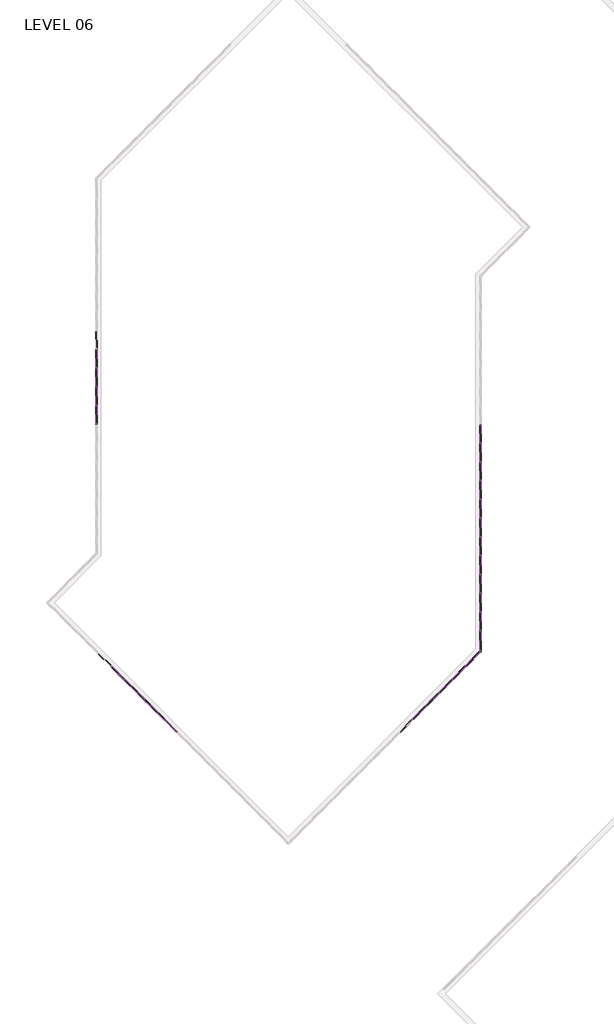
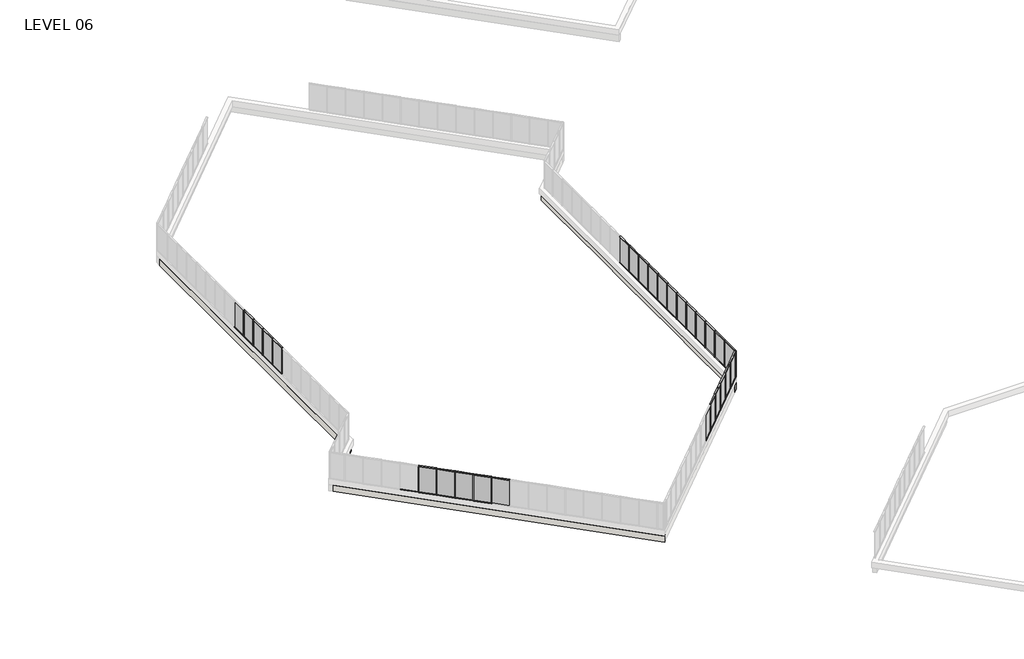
# One storey, part 4 of 17: 82 members, 28 plates, 3 walls.
"""IFC4 building model written with IfcOpenShell, lengths in millimetres."""

from ifc_helpers import new_model, si_unit, origin, place, context, project, spatial, faceted_brep, transform, mapped, element, save
from components import member_5247f267, member_e44af9ab, member_800970d4, member_c23f844a, member_1bd862b2, member_c975838b, member_ed9c17d6, plate_67294edd, plate_50b9cd61, plate_bbcbcabf, plate_db5d6751, plate_e0fd5134, plate_dca6a18a

model = new_model("IFC4")

# Units and contexts
model_context = context("Model", 3, world=origin())
ifc_project = project(units=[si_unit("LENGTHUNIT", "METRE", prefix="MILLI")], contexts=[model_context])

# Site, building, storey
site = spatial("IfcSite", under=ifc_project)
building = spatial("IfcBuilding", under=site)
storey = spatial("IfcBuildingStorey", under=building, Name="LEVEL 06", Elevation=19596.1)

# Members
placement = place(None, origin())
member_shape = member_5247f267(model_context)
element("IfcMember", 1, ObjectType="Rectangular Mullion : 2\" x 4.5\" rectangular", at=placement, inside=storey, context=model_context, shape_type="MappedRepresentation", body=[
    mapped(member_shape, transform((-32784.0347164, 58254.5675885, 22186.9), x_axis=(0.0, 0.0, 1.0), y_axis=(1.0, 0.0, 0.0), z_axis=(0.0, 1.0, 0.0))),
])
element("IfcMember", 2, ObjectType="Rectangular Mullion : 2\" x 4.5\" rectangular", at=placement, inside=storey, context=model_context, shape_type="MappedRepresentation", body=[
    mapped(member_shape, transform((-32784.0347164, 59778.5675885, 22186.9), x_axis=(0.0, 0.0, 1.0), y_axis=(1.0, 0.0, 0.0), z_axis=(0.0, 1.0, 0.0))),
])
element("IfcMember", 3, ObjectType="Rectangular Mullion : 2\" x 4.5\" rectangular", at=placement, inside=storey, context=model_context, shape_type="MappedRepresentation", body=[
    mapped(member_shape, transform((-32784.0347164, 62826.5675885, 22186.9), x_axis=(0.0, 0.0, 1.0), y_axis=(1.0, 0.0, 0.0), z_axis=(0.0, 1.0, 0.0))),
])
element("IfcMember", 4, ObjectType="Rectangular Mullion : 2\" x 4.5\" rectangular", at=placement, inside=storey, context=model_context, shape_type="MappedRepresentation", body=[
    mapped(member_shape, transform((-32784.0347164, 61302.5675885, 22186.9), x_axis=(0.0, 0.0, 1.0), y_axis=(1.0, 0.0, 0.0), z_axis=(0.0, 1.0, 0.0))),
])
element("IfcMember", 5, ObjectType="Rectangular Mullion : 2\" x 4.5\" rectangular", at=placement, inside=storey, context=model_context, shape_type="MappedRepresentation", body=[
    mapped(member_shape, transform((-1611.8847164, 49110.5675885, 22186.9), x_axis=(0.0, 0.0, 1.0), y_axis=(1.0, 0.0, 0.0), z_axis=(0.0, 1.0, 0.0))),
])
element("IfcMember", 6, ObjectType="Rectangular Mullion : 2\" x 4.5\" rectangular", at=placement, inside=storey, context=model_context, shape_type="MappedRepresentation", body=[
    mapped(member_shape, transform((-1611.8847164, 50634.5675885, 22186.9), x_axis=(0.0, 0.0, 1.0), y_axis=(1.0, 0.0, 0.0), z_axis=(0.0, 1.0, 0.0))),
])
element("IfcMember", 7, ObjectType="Rectangular Mullion : 2\" x 4.5\" rectangular", at=placement, inside=storey, context=model_context, shape_type="MappedRepresentation", body=[
    mapped(member_shape, transform((-1611.8847164, 52158.5675885, 22186.9), x_axis=(0.0, 0.0, 1.0), y_axis=(1.0, 0.0, 0.0), z_axis=(0.0, 1.0, 0.0))),
])
element("IfcMember", 8, ObjectType="Rectangular Mullion : 2\" x 4.5\" rectangular", at=placement, inside=storey, context=model_context, shape_type="MappedRepresentation", body=[
    mapped(member_shape, transform((-1611.8847164, 55206.5675885, 22186.9), x_axis=(0.0, 0.0, 1.0), y_axis=(1.0, 0.0, 0.0), z_axis=(0.0, 1.0, 0.0))),
])
element("IfcMember", 9, ObjectType="Rectangular Mullion : 2\" x 4.5\" rectangular", at=placement, inside=storey, context=model_context, shape_type="MappedRepresentation", body=[
    mapped(member_shape, transform((-1611.8847164, 56730.5675885, 22186.9), x_axis=(0.0, 0.0, 1.0), y_axis=(1.0, 0.0, 0.0), z_axis=(0.0, 1.0, 0.0))),
])
element("IfcMember", 10, ObjectType="Rectangular Mullion : 2\" x 4.5\" rectangular", at=placement, inside=storey, context=model_context, shape_type="MappedRepresentation", body=[
    mapped(member_shape, transform((-1611.8847164, 53682.5675885, 22186.9), x_axis=(0.0, 0.0, 1.0), y_axis=(1.0, 0.0, 0.0), z_axis=(0.0, 1.0, 0.0))),
])
element("IfcMember", 11, ObjectType="Rectangular Mullion : 2\" x 4.5\" rectangular", at=placement, inside=storey, context=model_context, shape_type="MappedRepresentation", body=[
    mapped(member_shape, transform((-1611.8847164, 47586.5675885, 22186.9), x_axis=(0.0, 0.0, 1.0), y_axis=(1.0, 0.0, 0.0), z_axis=(0.0, 1.0, 0.0))),
])
element("IfcMember", 12, ObjectType="Rectangular Mullion : 2\" x 4.5\" rectangular", at=placement, inside=storey, context=model_context, shape_type="MappedRepresentation", body=[
    mapped(member_shape, transform((-1611.8847164, 46062.5675885, 22186.9), x_axis=(0.0, 0.0, 1.0), y_axis=(1.0, 0.0, 0.0), z_axis=(0.0, 1.0, 0.0))),
])
element("IfcMember", 13, ObjectType="Rectangular Mullion : 2\" x 4.5\" rectangular", at=placement, inside=storey, context=model_context, shape_type="MappedRepresentation", body=[
    mapped(member_shape, transform((-1611.8847164, 44538.5675885, 22186.9), x_axis=(0.0, 0.0, 1.0), y_axis=(1.0, 0.0, 0.0), z_axis=(0.0, 1.0, 0.0))),
])
element("IfcMember", 14, ObjectType="Rectangular Mullion : 2\" x 4.5\" rectangular", at=placement, inside=storey, context=model_context, shape_type="MappedRepresentation", body=[
    mapped(member_shape, transform((-1611.8847164, 43014.5675885, 22186.9), x_axis=(0.0, 0.0, 1.0), y_axis=(1.0, 0.0, 0.0), z_axis=(0.0, 1.0, 0.0))),
])
element("IfcMember", 15, ObjectType="Rectangular Mullion : 2\" x 4.5\" rectangular", at=placement, inside=storey, context=model_context, shape_type="MappedRepresentation", body=[
    mapped(member_shape, transform((-1611.8847164, 41490.5675885, 22186.9), x_axis=(0.0, 0.0, 1.0), y_axis=(1.0, 0.0, 0.0), z_axis=(0.0, 1.0, 0.0))),
])
element("IfcMember", 16, ObjectType="Rectangular Mullion : 2\" x 4.5\" rectangular", at=placement, inside=storey, context=model_context, shape_type="MappedRepresentation", body=[
    mapped(member_shape, transform((-3866.0742688, 36048.0719005, 22186.9), x_axis=(0.0, 0.0, 1.0), y_axis=(-0.7071067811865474, 0.7071067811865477, 0.0), z_axis=(-0.7071067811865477, -0.7071067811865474, 0.0))),
])
element("IfcMember", 17, ObjectType="Rectangular Mullion : 2\" x 4.5\" rectangular", at=placement, inside=storey, context=model_context, shape_type="MappedRepresentation", body=[
    mapped(member_shape, transform((-4943.7050033, 34970.441166, 22186.9), x_axis=(0.0, 0.0, 1.0), y_axis=(-0.707106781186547, 0.707106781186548, 0.0), z_axis=(-0.707106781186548, -0.707106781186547, 0.0))),
])
element("IfcMember", 18, ObjectType="Rectangular Mullion : 2\" x 4.5\" rectangular", at=placement, inside=storey, context=model_context, shape_type="MappedRepresentation", body=[
    mapped(member_shape, transform((-6021.3357378, 33892.8104315, 22186.9), x_axis=(0.0, 0.0, 1.0), y_axis=(-0.7071067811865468, 0.7071067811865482, 0.0), z_axis=(-0.7071067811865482, -0.7071067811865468, 0.0))),
])
element("IfcMember", 19, ObjectType="Rectangular Mullion : 2\" x 4.5\" rectangular", at=placement, inside=storey, context=model_context, shape_type="MappedRepresentation", body=[
    mapped(member_shape, transform((-7098.9590715, 32815.1870978, 22186.9), x_axis=(0.0, 0.0, 1.0), y_axis=(-0.7071067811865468, 0.7071067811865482, 0.0), z_axis=(-0.7071067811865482, -0.7071067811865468, 0.0))),
])
element("IfcMember", 20, ObjectType="Rectangular Mullion : 2\" x 4.5\" rectangular", at=placement, inside=storey, context=model_context, shape_type="MappedRepresentation", body=[
    mapped(member_shape, transform((-32784.0347164, 56781.3675885, 19596.1), x_axis=(0.0, 0.0, -1.0), y_axis=(1.0, 0.0, 0.0), z_axis=(0.0, -1.0, 0.0))),
])
element("IfcMember", 21, ObjectType="Rectangular Mullion : 2\" x 4.5\" rectangular", at=placement, inside=storey, context=model_context, shape_type="MappedRepresentation", body=[
    mapped(member_shape, transform((-32784.0347164, 58305.3675885, 19596.1), x_axis=(0.0, 0.0, -1.0), y_axis=(1.0, 0.0, 0.0), z_axis=(0.0, -1.0, 0.0))),
])
element("IfcMember", 22, ObjectType="Rectangular Mullion : 2\" x 4.5\" rectangular", at=placement, inside=storey, context=model_context, shape_type="MappedRepresentation", body=[
    mapped(member_shape, transform((-32784.0347164, 59829.3675885, 19596.1), x_axis=(0.0, 0.0, -1.0), y_axis=(1.0, 0.0, 0.0), z_axis=(0.0, -1.0, 0.0))),
])
element("IfcMember", 23, ObjectType="Rectangular Mullion : 2\" x 4.5\" rectangular", at=placement, inside=storey, context=model_context, shape_type="MappedRepresentation", body=[
    mapped(member_shape, transform((-32784.0347164, 62877.3675885, 19596.1), x_axis=(0.0, 0.0, -1.0), y_axis=(1.0, 0.0, 0.0), z_axis=(0.0, -1.0, 0.0))),
])
element("IfcMember", 24, ObjectType="Rectangular Mullion : 2\" x 4.5\" rectangular", at=placement, inside=storey, context=model_context, shape_type="MappedRepresentation", body=[
    mapped(member_shape, transform((-32784.0347164, 61353.3675885, 19596.1), x_axis=(0.0, 0.0, -1.0), y_axis=(1.0, 0.0, 0.0), z_axis=(0.0, -1.0, 0.0))),
])
element("IfcMember", 25, ObjectType="Rectangular Mullion : 2\" x 4.5\" rectangular", at=placement, inside=storey, context=model_context, shape_type="MappedRepresentation", body=[
    mapped(member_shape, transform((-1611.8847164, 49161.3675885, 19596.1), x_axis=(0.0, 0.0, -1.0), y_axis=(1.0, 0.0, 0.0), z_axis=(0.0, -1.0, 0.0))),
])
element("IfcMember", 26, ObjectType="Rectangular Mullion : 2\" x 4.5\" rectangular", at=placement, inside=storey, context=model_context, shape_type="MappedRepresentation", body=[
    mapped(member_shape, transform((-1611.8847164, 50685.3675885, 19596.1), x_axis=(0.0, 0.0, -1.0), y_axis=(1.0, 0.0, 0.0), z_axis=(0.0, -1.0, 0.0))),
])
element("IfcMember", 27, ObjectType="Rectangular Mullion : 2\" x 4.5\" rectangular", at=placement, inside=storey, context=model_context, shape_type="MappedRepresentation", body=[
    mapped(member_shape, transform((-1611.8847164, 52209.3675885, 19596.1), x_axis=(0.0, 0.0, -1.0), y_axis=(1.0, 0.0, 0.0), z_axis=(0.0, -1.0, 0.0))),
])
element("IfcMember", 28, ObjectType="Rectangular Mullion : 2\" x 4.5\" rectangular", at=placement, inside=storey, context=model_context, shape_type="MappedRepresentation", body=[
    mapped(member_shape, transform((-1611.8847164, 55257.3675885, 19596.1), x_axis=(0.0, 0.0, -1.0), y_axis=(1.0, 0.0, 0.0), z_axis=(0.0, -1.0, 0.0))),
])
element("IfcMember", 29, ObjectType="Rectangular Mullion : 2\" x 4.5\" rectangular", at=placement, inside=storey, context=model_context, shape_type="MappedRepresentation", body=[
    mapped(member_shape, transform((-1611.8847164, 53733.3675885, 19596.1), x_axis=(0.0, 0.0, -1.0), y_axis=(1.0, 0.0, 0.0), z_axis=(0.0, -1.0, 0.0))),
])
element("IfcMember", 30, ObjectType="Rectangular Mullion : 2\" x 4.5\" rectangular", at=placement, inside=storey, context=model_context, shape_type="MappedRepresentation", body=[
    mapped(member_shape, transform((-1611.8847164, 47637.3675885, 19596.1), x_axis=(0.0, 0.0, -1.0), y_axis=(1.0, 0.0, 0.0), z_axis=(0.0, -1.0, 0.0))),
])
element("IfcMember", 31, ObjectType="Rectangular Mullion : 2\" x 4.5\" rectangular", at=placement, inside=storey, context=model_context, shape_type="MappedRepresentation", body=[
    mapped(member_shape, transform((-1611.8847164, 46113.3675885, 19596.1), x_axis=(0.0, 0.0, -1.0), y_axis=(1.0, 0.0, 0.0), z_axis=(0.0, -1.0, 0.0))),
])
element("IfcMember", 32, ObjectType="Rectangular Mullion : 2\" x 4.5\" rectangular", at=placement, inside=storey, context=model_context, shape_type="MappedRepresentation", body=[
    mapped(member_shape, transform((-1611.8847164, 44589.3675885, 19596.1), x_axis=(0.0, 0.0, -1.0), y_axis=(1.0, 0.0, 0.0), z_axis=(0.0, -1.0, 0.0))),
])
element("IfcMember", 33, ObjectType="Rectangular Mullion : 2\" x 4.5\" rectangular", at=placement, inside=storey, context=model_context, shape_type="MappedRepresentation", body=[
    mapped(member_shape, transform((-1611.8847164, 43065.3675885, 19596.1), x_axis=(0.0, 0.0, -1.0), y_axis=(1.0, 0.0, 0.0), z_axis=(0.0, -1.0, 0.0))),
])
element("IfcMember", 34, ObjectType="Rectangular Mullion : 2\" x 4.5\" rectangular", at=placement, inside=storey, context=model_context, shape_type="MappedRepresentation", body=[
    mapped(member_shape, transform((-1611.8847164, 41541.3675885, 19596.1), x_axis=(0.0, 0.0, -1.0), y_axis=(1.0, 0.0, 0.0), z_axis=(0.0, -1.0, 0.0))),
])
element("IfcMember", 35, ObjectType="Rectangular Mullion : 2\" x 4.5\" rectangular", at=placement, inside=storey, context=model_context, shape_type="MappedRepresentation", body=[
    mapped(member_shape, transform((-1611.8847164, 40017.3675885, 19596.1), x_axis=(0.0, 0.0, -1.0), y_axis=(1.0, 0.0, 0.0), z_axis=(0.0, -1.0, 0.0))),
])
element("IfcMember", 36, ObjectType="Rectangular Mullion : 2\" x 4.5\" rectangular", at=placement, inside=storey, context=model_context, shape_type="MappedRepresentation", body=[
    mapped(member_shape, transform((-3901.9952932, 36012.1508761, 19596.1), x_axis=(0.0, 0.0, -1.0), y_axis=(-0.7071067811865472, 0.7071067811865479, 0.0), z_axis=(0.7071067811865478, 0.7071067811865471, 0.0))),
])
element("IfcMember", 37, ObjectType="Rectangular Mullion : 2\" x 4.5\" rectangular", at=placement, inside=storey, context=model_context, shape_type="MappedRepresentation", body=[
    mapped(member_shape, transform((-4979.6260278, 34934.5201415, 19596.1), x_axis=(0.0, 0.0, -1.0), y_axis=(-0.7071067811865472, 0.7071067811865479, 0.0), z_axis=(0.7071067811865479, 0.7071067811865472, 0.0))),
])
element("IfcMember", 38, ObjectType="Rectangular Mullion : 2\" x 4.5\" rectangular", at=placement, inside=storey, context=model_context, shape_type="MappedRepresentation", body=[
    mapped(member_shape, transform((-6057.2567623, 33856.889407, 19596.1), x_axis=(0.0, 0.0, -1.0), y_axis=(-0.7071067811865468, 0.7071067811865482, 0.0), z_axis=(0.7071067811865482, 0.7071067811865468, 0.0))),
])
element("IfcMember", 39, ObjectType="Rectangular Mullion : 2\" x 4.5\" rectangular", at=placement, inside=storey, context=model_context, shape_type="MappedRepresentation", body=[
    mapped(member_shape, transform((-2824.3645587, 37089.7816106, 19596.1), x_axis=(0.0, 0.0, -1.0), y_axis=(-0.707106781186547, 0.7071067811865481, 0.0), z_axis=(0.707106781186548, 0.7071067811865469, 0.0))),
])
element("IfcMember", 40, ObjectType="Rectangular Mullion : 2\" x 4.5\" rectangular", at=placement, inside=storey, context=model_context, shape_type="MappedRepresentation", body=[
    mapped(member_shape, transform((-7134.880096, 32779.2660733, 19596.1), x_axis=(0.0, 0.0, -1.0), y_axis=(-0.7071067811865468, 0.7071067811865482, 0.0), z_axis=(0.7071067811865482, 0.7071067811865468, 0.0))),
])
element("IfcMember", 41, ObjectType="Rectangular Mullion : 2\" x 4.5\" rectangular", at=placement, inside=storey, context=model_context, shape_type="MappedRepresentation", body=[
    mapped(member_shape, transform((-31583.4219356, 37101.6486721, 19596.1), x_axis=(0.0, 0.0, -1.0), y_axis=(0.7071067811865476, 0.7071067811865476, 0.0), z_axis=(0.7071067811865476, -0.7071067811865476, 0.0))),
])
member_2_shape = member_e44af9ab(model_context)
element("IfcMember", 42, ObjectType="Rectangular Mullion : 2\" x 4.5\" rectangular", at=placement, inside=storey, context=model_context, shape_type="MappedRepresentation", body=[
    mapped(member_2_shape, transform((-32784.0347164, 56755.9675885, 19596.1), x_axis=(0.0, 1.0, 0.0), y_axis=(1.0, 0.0, 0.0), z_axis=(0.0, 0.0, -1.0))),
])
element("IfcMember", 43, ObjectType="Rectangular Mullion : 2\" x 4.5\" rectangular", at=placement, inside=storey, context=model_context, shape_type="MappedRepresentation", body=[
    mapped(member_2_shape, transform((-32784.0347164, 58279.9675885, 19596.1), x_axis=(0.0, 1.0, 0.0), y_axis=(1.0, 0.0, 0.0), z_axis=(0.0, 0.0, -1.0))),
])
element("IfcMember", 44, ObjectType="Rectangular Mullion : 2\" x 4.5\" rectangular", at=placement, inside=storey, context=model_context, shape_type="MappedRepresentation", body=[
    mapped(member_2_shape, transform((-32784.0347164, 59803.9675885, 19596.1), x_axis=(0.0, 1.0, 0.0), y_axis=(1.0, 0.0, 0.0), z_axis=(0.0, 0.0, -1.0))),
])
element("IfcMember", 45, ObjectType="Rectangular Mullion : 2\" x 4.5\" rectangular", at=placement, inside=storey, context=model_context, shape_type="MappedRepresentation", body=[
    mapped(member_2_shape, transform((-32784.0347164, 62851.9675885, 19596.1), x_axis=(0.0, 1.0, 0.0), y_axis=(1.0, 0.0, 0.0), z_axis=(0.0, 0.0, -1.0))),
])
element("IfcMember", 46, ObjectType="Rectangular Mullion : 2\" x 4.5\" rectangular", at=placement, inside=storey, context=model_context, shape_type="MappedRepresentation", body=[
    mapped(member_2_shape, transform((-32784.0347164, 61327.9675885, 19596.1), x_axis=(0.0, 1.0, 0.0), y_axis=(1.0, 0.0, 0.0), z_axis=(0.0, 0.0, -1.0))),
])
element("IfcMember", 47, ObjectType="Rectangular Mullion : 2\" x 4.5\" rectangular", at=placement, inside=storey, context=model_context, shape_type="MappedRepresentation", body=[
    mapped(member_2_shape, transform((-1611.8847164, 49135.9675885, 19596.1), x_axis=(0.0, 1.0, 0.0), y_axis=(1.0, 0.0, 0.0), z_axis=(0.0, 0.0, -1.0))),
])
element("IfcMember", 48, ObjectType="Rectangular Mullion : 2\" x 4.5\" rectangular", at=placement, inside=storey, context=model_context, shape_type="MappedRepresentation", body=[
    mapped(member_2_shape, transform((-1611.8847164, 50659.9675885, 19596.1), x_axis=(0.0, 1.0, 0.0), y_axis=(1.0, 0.0, 0.0), z_axis=(0.0, 0.0, -1.0))),
])
element("IfcMember", 49, ObjectType="Rectangular Mullion : 2\" x 4.5\" rectangular", at=placement, inside=storey, context=model_context, shape_type="MappedRepresentation", body=[
    mapped(member_2_shape, transform((-1611.8847164, 52183.9675885, 19596.1), x_axis=(0.0, 1.0, 0.0), y_axis=(1.0, 0.0, 0.0), z_axis=(0.0, 0.0, -1.0))),
])
element("IfcMember", 50, ObjectType="Rectangular Mullion : 2\" x 4.5\" rectangular", at=placement, inside=storey, context=model_context, shape_type="MappedRepresentation", body=[
    mapped(member_2_shape, transform((-1611.8847164, 55231.9675885, 19596.1), x_axis=(0.0, 1.0, 0.0), y_axis=(1.0, 0.0, 0.0), z_axis=(0.0, 0.0, -1.0))),
])
element("IfcMember", 51, ObjectType="Rectangular Mullion : 2\" x 4.5\" rectangular", at=placement, inside=storey, context=model_context, shape_type="MappedRepresentation", body=[
    mapped(member_2_shape, transform((-1611.8847164, 53707.9675885, 19596.1), x_axis=(0.0, 1.0, 0.0), y_axis=(1.0, 0.0, 0.0), z_axis=(0.0, 0.0, -1.0))),
])
element("IfcMember", 52, ObjectType="Rectangular Mullion : 2\" x 4.5\" rectangular", at=placement, inside=storey, context=model_context, shape_type="MappedRepresentation", body=[
    mapped(member_2_shape, transform((-1611.8847164, 47611.9675885, 19596.1), x_axis=(0.0, 1.0, 0.0), y_axis=(1.0, 0.0, 0.0), z_axis=(0.0, 0.0, -1.0))),
])
element("IfcMember", 53, ObjectType="Rectangular Mullion : 2\" x 4.5\" rectangular", at=placement, inside=storey, context=model_context, shape_type="MappedRepresentation", body=[
    mapped(member_2_shape, transform((-1611.8847164, 46087.9675885, 19596.1), x_axis=(0.0, 1.0, 0.0), y_axis=(1.0, 0.0, 0.0), z_axis=(0.0, 0.0, -1.0))),
])
element("IfcMember", 54, ObjectType="Rectangular Mullion : 2\" x 4.5\" rectangular", at=placement, inside=storey, context=model_context, shape_type="MappedRepresentation", body=[
    mapped(member_2_shape, transform((-1611.8847164, 44563.9675885, 19596.1), x_axis=(0.0, 1.0, 0.0), y_axis=(1.0, 0.0, 0.0), z_axis=(0.0, 0.0, -1.0))),
])
element("IfcMember", 55, ObjectType="Rectangular Mullion : 2\" x 4.5\" rectangular", at=placement, inside=storey, context=model_context, shape_type="MappedRepresentation", body=[
    mapped(member_2_shape, transform((-1611.8847164, 43039.9675885, 19596.1), x_axis=(0.0, 1.0, 0.0), y_axis=(1.0, 0.0, 0.0), z_axis=(0.0, 0.0, -1.0))),
])
element("IfcMember", 56, ObjectType="Rectangular Mullion : 2\" x 4.5\" rectangular", at=placement, inside=storey, context=model_context, shape_type="MappedRepresentation", body=[
    mapped(member_2_shape, transform((-1611.8847164, 41515.9675885, 19596.1), x_axis=(0.0, 1.0, 0.0), y_axis=(1.0, 0.0, 0.0), z_axis=(0.0, 0.0, -1.0))),
])
element("IfcMember", 57, ObjectType="Rectangular Mullion : 2\" x 4.5\" rectangular", at=placement, inside=storey, context=model_context, shape_type="MappedRepresentation", body=[
    mapped(member_2_shape, transform((-1611.8847164, 39991.9675885, 19596.1), x_axis=(0.0, 1.0, 0.0), y_axis=(1.0, 0.0, 0.0), z_axis=(0.0, 0.0, -1.0))),
])
element("IfcMember", 58, ObjectType="Rectangular Mullion : 2\" x 4.5\" rectangular", at=placement, inside=storey, context=model_context, shape_type="MappedRepresentation", body=[
    mapped(member_2_shape, transform((-3884.034781, 36030.1113883, 19596.1), x_axis=(-0.7071067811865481, -0.7071067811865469, 0.0), y_axis=(-0.7071067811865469, 0.7071067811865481, 0.0), z_axis=(0.0, 0.0, -1.0))),
])
element("IfcMember", 59, ObjectType="Rectangular Mullion : 2\" x 4.5\" rectangular", at=placement, inside=storey, context=model_context, shape_type="MappedRepresentation", body=[
    mapped(member_2_shape, transform((-4961.6655155, 34952.4806538, 19596.1), x_axis=(-0.7071067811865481, -0.7071067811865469, 0.0), y_axis=(-0.7071067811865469, 0.7071067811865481, 0.0), z_axis=(0.0, 0.0, -1.0))),
])
element("IfcMember", 60, ObjectType="Rectangular Mullion : 2\" x 4.5\" rectangular", at=placement, inside=storey, context=model_context, shape_type="MappedRepresentation", body=[
    mapped(member_2_shape, transform((-6039.2962501, 33874.8499192, 19596.1), x_axis=(-0.7071067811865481, -0.7071067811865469, 0.0), y_axis=(-0.7071067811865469, 0.7071067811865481, 0.0), z_axis=(0.0, 0.0, -1.0))),
])
element("IfcMember", 61, ObjectType="Rectangular Mullion : 2\" x 4.5\" rectangular", at=placement, inside=storey, context=model_context, shape_type="MappedRepresentation", body=[
    mapped(member_2_shape, transform((-2806.4040465, 37107.7421228, 19596.1), x_axis=(-0.7071067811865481, -0.7071067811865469, 0.0), y_axis=(-0.7071067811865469, 0.7071067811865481, 0.0), z_axis=(0.0, 0.0, -1.0))),
])
element("IfcMember", 62, ObjectType="Rectangular Mullion : 2\" x 4.5\" rectangular", at=placement, inside=storey, context=model_context, shape_type="MappedRepresentation", body=[
    mapped(member_2_shape, transform((-7116.9195837, 32797.2265856, 19596.1), x_axis=(-0.7071067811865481, -0.7071067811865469, 0.0), y_axis=(-0.7071067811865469, 0.7071067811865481, 0.0), z_axis=(0.0, 0.0, -1.0))),
])
element("IfcMember", 63, ObjectType="Rectangular Mullion : 2\" x 4.5\" rectangular", at=placement, inside=storey, context=model_context, shape_type="MappedRepresentation", body=[
    mapped(member_2_shape, transform((-28350.531194, 33868.7579305, 19596.1), x_axis=(-0.7071067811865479, 0.7071067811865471, 0.0), y_axis=(0.7071067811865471, 0.7071067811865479, 0.0), z_axis=(0.0, 0.0, -1.0))),
])
element("IfcMember", 64, ObjectType="Rectangular Mullion : 2\" x 4.5\" rectangular", at=placement, inside=storey, context=model_context, shape_type="MappedRepresentation", body=[
    mapped(member_2_shape, transform((-29422.1746038, 34940.4013403, 19596.1), x_axis=(-0.7071067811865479, 0.7071067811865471, 0.0), y_axis=(0.7071067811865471, 0.7071067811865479, 0.0), z_axis=(0.0, 0.0, -1.0))),
])
element("IfcMember", 65, ObjectType="Rectangular Mullion : 2\" x 4.5\" rectangular", at=placement, inside=storey, context=model_context, shape_type="MappedRepresentation", body=[
    mapped(member_2_shape, transform((-30493.8180136, 36012.0447501, 19596.1), x_axis=(-0.7071067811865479, 0.7071067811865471, 0.0), y_axis=(0.7071067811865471, 0.7071067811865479, 0.0), z_axis=(0.0, 0.0, -1.0))),
])
element("IfcMember", 66, ObjectType="Rectangular Mullion : 2\" x 4.5\" rectangular", at=placement, inside=storey, context=model_context, shape_type="MappedRepresentation", body=[
    mapped(member_2_shape, transform((-31565.4614234, 37083.6881599, 19596.1), x_axis=(-0.7071067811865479, 0.7071067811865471, 0.0), y_axis=(0.7071067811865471, 0.7071067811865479, 0.0), z_axis=(0.0, 0.0, -1.0))),
])
element("IfcMember", 67, ObjectType="Rectangular Mullion : 2\" x 4.5\" rectangular", at=placement, inside=storey, context=model_context, shape_type="MappedRepresentation", body=[
    mapped(member_2_shape, transform((-27275.9119891, 32794.1387256, 19596.1), x_axis=(-0.7071067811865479, 0.7071067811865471, 0.0), y_axis=(0.7071067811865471, 0.7071067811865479, 0.0), z_axis=(0.0, 0.0, -1.0))),
])
member_3_shape = member_800970d4(model_context)
element("IfcMember", 68, ObjectType="Rectangular Mullion : 2\" x 4.5\" rectangular", at=placement, inside=storey, context=model_context, shape_type="MappedRepresentation", body=[
    mapped(member_3_shape, transform((-1611.8847164, 38302.2614529, 22186.9), x_axis=(0.0, -1.0, 0.0), y_axis=(1.0, 0.0, 0.0), z_axis=(0.0, 0.0, 1.0))),
])
element("IfcMember", 69, ObjectType="Rectangular Mullion : 2\" x 4.5\" rectangular", at=placement, inside=storey, context=model_context, shape_type="MappedRepresentation", body=[
    mapped(member_3_shape, transform((-1611.8847164, 38302.2614529, 22186.9), x_axis=(0.7071067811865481, 0.7071067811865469, 0.0), y_axis=(-0.7071067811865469, 0.7071067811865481, 0.0), z_axis=(0.0, 0.0, 1.0))),
])
member_4_shape = member_c23f844a(model_context)
element("IfcMember", 70, ObjectType="Rectangular Mullion : 2\" x 4.5\" rectangular", at=placement, inside=storey, context=model_context, shape_type="MappedRepresentation", body=[
    mapped(member_4_shape, transform((-29404.2140916, 34922.4408281, 22186.9), x_axis=(0.0, 0.0, 1.0), y_axis=(0.7071067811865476, 0.7071067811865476, 0.0), z_axis=(-0.7071067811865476, 0.7071067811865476, 0.0))),
])
element("IfcMember", 71, ObjectType="Rectangular Mullion : 2\" x 4.5\" rectangular", at=placement, inside=storey, context=model_context, shape_type="MappedRepresentation", body=[
    mapped(member_4_shape, transform((-30475.8575014, 35994.0842378, 22186.9), x_axis=(0.0, 0.0, 1.0), y_axis=(0.7071067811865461, 0.707106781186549, 0.0), z_axis=(-0.707106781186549, 0.7071067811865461, 0.0))),
])
element("IfcMember", 72, ObjectType="Rectangular Mullion : 2\" x 4.5\" rectangular", at=placement, inside=storey, context=model_context, shape_type="MappedRepresentation", body=[
    mapped(member_4_shape, transform((-31547.5009111, 37065.7276476, 22186.9), x_axis=(0.0, 0.0, 1.0), y_axis=(0.7071067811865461, 0.707106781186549, 0.0), z_axis=(-0.7071067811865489, 0.707106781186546, 0.0))),
])
element("IfcMember", 73, ObjectType="Rectangular Mullion : 2\" x 4.5\" rectangular", at=placement, inside=storey, context=model_context, shape_type="MappedRepresentation", body=[
    mapped(member_4_shape, transform((-28368.4917063, 33886.7184427, 19596.1), x_axis=(0.0, 0.0, -1.0), y_axis=(0.7071067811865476, 0.7071067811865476, 0.0), z_axis=(0.7071067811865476, -0.7071067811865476, 0.0))),
])
element("IfcMember", 74, ObjectType="Rectangular Mullion : 2\" x 4.5\" rectangular", at=placement, inside=storey, context=model_context, shape_type="MappedRepresentation", body=[
    mapped(member_4_shape, transform((-29440.135116, 34958.3618525, 19596.1), x_axis=(0.0, 0.0, -1.0), y_axis=(0.7071067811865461, 0.707106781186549, 0.0), z_axis=(0.707106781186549, -0.7071067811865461, 0.0))),
])
element("IfcMember", 75, ObjectType="Rectangular Mullion : 2\" x 4.5\" rectangular", at=placement, inside=storey, context=model_context, shape_type="MappedRepresentation", body=[
    mapped(member_4_shape, transform((-30511.7785258, 36030.0052623, 19596.1), x_axis=(0.0, 0.0, -1.0), y_axis=(0.7071067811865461, 0.707106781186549, 0.0), z_axis=(0.7071067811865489, -0.707106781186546, 0.0))),
])
member_5_shape = member_1bd862b2(model_context)
element("IfcMember", 76, ObjectType="Rectangular Mullion : 2\" x 4.5\" rectangular", at=placement, inside=storey, context=model_context, shape_type="MappedRepresentation", body=[
    mapped(member_5_shape, transform((-1611.8847164, 38353.0614529, 19596.1), x_axis=(0.0, 0.0, -1.0), y_axis=(1.0, 0.0, 0.0), z_axis=(0.0, -1.0, 0.0))),
])
element("IfcMember", 77, ObjectType="Rectangular Mullion : 2\" x 4.5\" rectangular", at=placement, inside=storey, context=model_context, shape_type="MappedRepresentation", body=[
    mapped(member_5_shape, transform((-1611.8847164, 39966.5675885, 22186.9), x_axis=(0.0, 0.0, 1.0), y_axis=(1.0, 0.0, 0.0), z_axis=(0.0, 1.0, 0.0))),
])
member_6_shape = member_c975838b(model_context)
element("IfcMember", 78, ObjectType="Rectangular Mullion : 2\" x 4.5\" rectangular", at=placement, inside=storey, context=model_context, shape_type="MappedRepresentation", body=[
    mapped(member_6_shape, transform((-1647.8057409, 38266.3404284, 19596.1), x_axis=(0.0, 0.0, -1.0), y_axis=(-0.7071067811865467, 0.7071067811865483, 0.0), z_axis=(0.7071067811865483, 0.7071067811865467, 0.0))),
])
element("IfcMember", 79, ObjectType="Rectangular Mullion : 2\" x 4.5\" rectangular", at=placement, inside=storey, context=model_context, shape_type="MappedRepresentation", body=[
    mapped(member_6_shape, transform((-2788.4435342, 37125.7026351, 22186.9), x_axis=(0.0, 0.0, 1.0), y_axis=(-0.7071067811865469, 0.7071067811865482, 0.0), z_axis=(-0.7071067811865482, -0.7071067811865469, 0.0))),
])
member_7_shape = member_ed9c17d6(model_context)
element("IfcMember", 80, ObjectType="Rectangular Mullion : 2\" x 4.5\" rectangular", at=placement, inside=storey, context=model_context, shape_type="MappedRepresentation", body=[
    mapped(member_7_shape, transform((-28332.5706818, 33850.7974183, 22186.9), x_axis=(0.0, 0.0, 1.0), y_axis=(0.7071067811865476, 0.7071067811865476, 0.0), z_axis=(-0.7071067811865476, 0.7071067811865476, 0.0))),
])
element("IfcMember", 81, ObjectType="Rectangular Mullion : 2\" x 4.5\" rectangular", at=placement, inside=storey, context=model_context, shape_type="MappedRepresentation", body=[
    mapped(member_7_shape, transform((-27257.9514769, 32776.1782134, 22186.9), x_axis=(0.0, 0.0, 1.0), y_axis=(0.7071067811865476, 0.7071067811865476, 0.0), z_axis=(-0.7071067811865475, 0.7071067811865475, 0.0))),
])
element("IfcMember", 82, ObjectType="Rectangular Mullion : 2\" x 4.5\" rectangular", at=placement, inside=storey, context=model_context, shape_type="MappedRepresentation", body=[
    mapped(member_7_shape, transform((-27293.8725014, 32812.0992378, 19596.1), x_axis=(0.0, 0.0, -1.0), y_axis=(0.7071067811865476, 0.7071067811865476, 0.0), z_axis=(0.7071067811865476, -0.7071067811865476, 0.0))),
])

# Plates
plate_shape = plate_67294edd(model_context)
element("IfcPlate", 83, ObjectType="System Panel : 1/4\" Glass", at=placement, inside=storey, context=model_context, shape_type="MappedRepresentation", body=[
    mapped(plate_shape, transform((-32784.0347164, 57517.9675885, 19646.9), x_axis=(0.0, 1.0, 0.0), y_axis=(-1.0, 0.0, 0.0), z_axis=(0.0, 0.0, 1.0))),
])
element("IfcPlate", 84, ObjectType="System Panel : 1/4\" Glass", at=placement, inside=storey, context=model_context, shape_type="MappedRepresentation", body=[
    mapped(plate_shape, transform((-32784.0347164, 59041.9675885, 19646.9), x_axis=(0.0, 1.0, 0.0), y_axis=(-1.0, 0.0, 0.0), z_axis=(0.0, 0.0, 1.0))),
])
element("IfcPlate", 85, ObjectType="System Panel : 1/4\" Glass", at=placement, inside=storey, context=model_context, shape_type="MappedRepresentation", body=[
    mapped(plate_shape, transform((-32784.0347164, 60565.9675885, 19646.9), x_axis=(0.0, 1.0, 0.0), y_axis=(-1.0, 0.0, 0.0), z_axis=(0.0, 0.0, 1.0))),
])
element("IfcPlate", 86, ObjectType="System Panel : 1/4\" Glass", at=placement, inside=storey, context=model_context, shape_type="MappedRepresentation", body=[
    mapped(plate_shape, transform((-32784.0347164, 63613.9675885, 19646.9), x_axis=(0.0, 1.0, 0.0), y_axis=(-1.0, 0.0, 0.0), z_axis=(0.0, 0.0, 1.0))),
])
element("IfcPlate", 87, ObjectType="System Panel : 1/4\" Glass", at=placement, inside=storey, context=model_context, shape_type="MappedRepresentation", body=[
    mapped(plate_shape, transform((-32784.0347164, 62089.9675885, 19646.9), x_axis=(0.0, 1.0, 0.0), y_axis=(-1.0, 0.0, 0.0), z_axis=(0.0, 0.0, 1.0))),
])
element("IfcPlate", 88, ObjectType="System Panel : 1/4\" Glass", at=placement, inside=storey, context=model_context, shape_type="MappedRepresentation", body=[
    mapped(plate_shape, transform((-1611.8847164, 49897.9675885, 19646.9), x_axis=(0.0, 1.0, 0.0), y_axis=(-1.0, 0.0, 0.0), z_axis=(0.0, 0.0, 1.0))),
])
element("IfcPlate", 89, ObjectType="System Panel : 1/4\" Glass", at=placement, inside=storey, context=model_context, shape_type="MappedRepresentation", body=[
    mapped(plate_shape, transform((-1611.8847164, 51421.9675885, 19646.9), x_axis=(0.0, 1.0, 0.0), y_axis=(-1.0, 0.0, 0.0), z_axis=(0.0, 0.0, 1.0))),
])
element("IfcPlate", 90, ObjectType="System Panel : 1/4\" Glass", at=placement, inside=storey, context=model_context, shape_type="MappedRepresentation", body=[
    mapped(plate_shape, transform((-1611.8847164, 52945.9675885, 19646.9), x_axis=(0.0, 1.0, 0.0), y_axis=(-1.0, 0.0, 0.0), z_axis=(0.0, 0.0, 1.0))),
])
element("IfcPlate", 91, ObjectType="System Panel : 1/4\" Glass", at=placement, inside=storey, context=model_context, shape_type="MappedRepresentation", body=[
    mapped(plate_shape, transform((-1611.8847164, 55993.9675885, 19646.9), x_axis=(0.0, 1.0, 0.0), y_axis=(-1.0, 0.0, 0.0), z_axis=(0.0, 0.0, 1.0))),
])
element("IfcPlate", 92, ObjectType="System Panel : 1/4\" Glass", at=placement, inside=storey, context=model_context, shape_type="MappedRepresentation", body=[
    mapped(plate_shape, transform((-1611.8847164, 54469.9675885, 19646.9), x_axis=(0.0, 1.0, 0.0), y_axis=(-1.0, 0.0, 0.0), z_axis=(0.0, 0.0, 1.0))),
])
element("IfcPlate", 93, ObjectType="System Panel : 1/4\" Glass", at=placement, inside=storey, context=model_context, shape_type="MappedRepresentation", body=[
    mapped(plate_shape, transform((-1611.8847164, 48373.9675885, 19646.9), x_axis=(0.0, 1.0, 0.0), y_axis=(-1.0, 0.0, 0.0), z_axis=(0.0, 0.0, 1.0))),
])
element("IfcPlate", 94, ObjectType="System Panel : 1/4\" Glass", at=placement, inside=storey, context=model_context, shape_type="MappedRepresentation", body=[
    mapped(plate_shape, transform((-1611.8847164, 46849.9675885, 19646.9), x_axis=(0.0, 1.0, 0.0), y_axis=(-1.0, 0.0, 0.0), z_axis=(0.0, 0.0, 1.0))),
])
element("IfcPlate", 95, ObjectType="System Panel : 1/4\" Glass", at=placement, inside=storey, context=model_context, shape_type="MappedRepresentation", body=[
    mapped(plate_shape, transform((-1611.8847164, 45325.9675885, 19646.9), x_axis=(0.0, 1.0, 0.0), y_axis=(-1.0, 0.0, 0.0), z_axis=(0.0, 0.0, 1.0))),
])
element("IfcPlate", 96, ObjectType="System Panel : 1/4\" Glass", at=placement, inside=storey, context=model_context, shape_type="MappedRepresentation", body=[
    mapped(plate_shape, transform((-1611.8847164, 43801.9675885, 19646.9), x_axis=(0.0, 1.0, 0.0), y_axis=(-1.0, 0.0, 0.0), z_axis=(0.0, 0.0, 1.0))),
])
element("IfcPlate", 97, ObjectType="System Panel : 1/4\" Glass", at=placement, inside=storey, context=model_context, shape_type="MappedRepresentation", body=[
    mapped(plate_shape, transform((-1611.8847164, 42277.9675885, 19646.9), x_axis=(0.0, 1.0, 0.0), y_axis=(-1.0, 0.0, 0.0), z_axis=(0.0, 0.0, 1.0))),
])
element("IfcPlate", 98, ObjectType="System Panel : 1/4\" Glass", at=placement, inside=storey, context=model_context, shape_type="MappedRepresentation", body=[
    mapped(plate_shape, transform((-1611.8847164, 40753.9675885, 19646.9), x_axis=(0.0, 1.0, 0.0), y_axis=(-1.0, 0.0, 0.0), z_axis=(0.0, 0.0, 1.0))),
])
element("IfcPlate", 99, ObjectType="System Panel : 1/4\" Glass", at=placement, inside=storey, context=model_context, shape_type="MappedRepresentation", body=[
    mapped(plate_shape, transform((-4422.8501483, 35491.296021, 19646.9), x_axis=(-0.7071067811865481, -0.7071067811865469, 0.0), y_axis=(0.7071067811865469, -0.7071067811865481, 0.0), z_axis=(0.0, 0.0, 1.0))),
])
element("IfcPlate", 100, ObjectType="System Panel : 1/4\" Glass", at=placement, inside=storey, context=model_context, shape_type="MappedRepresentation", body=[
    mapped(plate_shape, transform((-5500.4808828, 34413.6652865, 19646.9), x_axis=(-0.7071067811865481, -0.7071067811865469, 0.0), y_axis=(0.7071067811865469, -0.7071067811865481, 0.0), z_axis=(0.0, 0.0, 1.0))),
])
element("IfcPlate", 101, ObjectType="System Panel : 1/4\" Glass", at=placement, inside=storey, context=model_context, shape_type="MappedRepresentation", body=[
    mapped(plate_shape, transform((-3345.2194137, 36568.9267556, 19646.9), x_axis=(-0.7071067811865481, -0.7071067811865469, 0.0), y_axis=(0.7071067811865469, -0.7071067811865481, 0.0), z_axis=(0.0, 0.0, 1.0))),
])
plate_2_shape = plate_50b9cd61(model_context)
element("IfcPlate", 102, ObjectType="System Panel : 1/4\" Glass", at=placement, inside=storey, context=model_context, shape_type="MappedRepresentation", body=[
    mapped(plate_2_shape, transform((-28886.3528989, 34404.5796354, 19646.9), x_axis=(-0.7071067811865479, 0.7071067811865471, 0.0), y_axis=(-0.7071067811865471, -0.7071067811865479, 0.0), z_axis=(0.0, 0.0, 1.0))),
])
element("IfcPlate", 103, ObjectType="System Panel : 1/4\" Glass", at=placement, inside=storey, context=model_context, shape_type="MappedRepresentation", body=[
    mapped(plate_2_shape, transform((-29957.9963087, 35476.2230452, 19646.9), x_axis=(-0.7071067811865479, 0.7071067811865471, 0.0), y_axis=(-0.7071067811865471, -0.7071067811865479, 0.0), z_axis=(0.0, 0.0, 1.0))),
])
element("IfcPlate", 104, ObjectType="System Panel : 1/4\" Glass", at=placement, inside=storey, context=model_context, shape_type="MappedRepresentation", body=[
    mapped(plate_2_shape, transform((-31029.6397185, 36547.866455, 19646.9), x_axis=(-0.7071067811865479, 0.7071067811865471, 0.0), y_axis=(-0.7071067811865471, -0.7071067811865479, 0.0), z_axis=(0.0, 0.0, 1.0))),
])
plate_3_shape = plate_bbcbcabf(model_context)
element("IfcPlate", 105, ObjectType="System Panel : 1/4\" Glass", at=placement, inside=storey, context=model_context, shape_type="MappedRepresentation", body=[
    mapped(plate_3_shape, transform((-1611.8847164, 39159.8145207, 19646.9), x_axis=(0.0, 1.0, 0.0), y_axis=(-1.0, 0.0, 0.0), z_axis=(0.0, 0.0, 1.0))),
])
plate_4_shape = plate_db5d6751(model_context)
element("IfcPlate", 106, ObjectType="System Panel : 1/4\" Glass", at=placement, inside=storey, context=model_context, shape_type="MappedRepresentation", body=[
    mapped(plate_4_shape, transform((-2218.1246376, 37696.0215317, 19646.9), x_axis=(-0.7071067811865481, -0.7071067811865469, 0.0), y_axis=(0.7071067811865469, -0.7071067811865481, 0.0), z_axis=(0.0, 0.0, 1.0))),
])
plate_5_shape = plate_e0fd5134(model_context)
element("IfcPlate", 107, ObjectType="System Panel : 1/4\" Glass", at=placement, inside=storey, context=model_context, shape_type="MappedRepresentation", body=[
    mapped(plate_5_shape, transform((-6578.1079169, 33336.0382524, 19646.9), x_axis=(-0.7071067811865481, -0.7071067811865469, 0.0), y_axis=(0.7071067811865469, -0.7071067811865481, 0.0), z_axis=(0.0, 0.0, 1.0))),
])
element("IfcPlate", 108, ObjectType="System Panel : 1/4\" Glass", at=placement, inside=storey, context=model_context, shape_type="MappedRepresentation", body=[
    mapped(plate_5_shape, transform((-7655.7312505, 32258.4149187, 19646.9), x_axis=(-0.7071067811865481, -0.7071067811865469, 0.0), y_axis=(0.7071067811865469, -0.7071067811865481, 0.0), z_axis=(0.0, 0.0, 1.0))),
])
plate_6_shape = plate_dca6a18a(model_context)
element("IfcPlate", 109, ObjectType="System Panel : 1/4\" Glass", at=placement, inside=storey, context=model_context, shape_type="MappedRepresentation", body=[
    mapped(plate_6_shape, transform((-26738.6023867, 32256.8291232, 19646.9), x_axis=(-0.7071067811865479, 0.7071067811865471, 0.0), y_axis=(-0.7071067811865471, -0.7071067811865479, 0.0), z_axis=(0.0, 0.0, 1.0))),
])
element("IfcPlate", 110, ObjectType="System Panel : 1/4\" Glass", at=placement, inside=storey, context=model_context, shape_type="MappedRepresentation", body=[
    mapped(plate_6_shape, transform((-27813.2215916, 33331.4483281, 19646.9), x_axis=(-0.7071067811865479, 0.7071067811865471, 0.0), y_axis=(-0.7071067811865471, -0.7071067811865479, 0.0), z_axis=(0.0, 0.0, 1.0))),
])

# Walls
element("IfcWall", 111, ObjectType="01-CONCRETE-12", at=placement, inside=storey, context=model_context, shape_type="Brep", body=[
    faceted_brep([(-1554.7347164, 38278.5891478, 18415.0), (-1554.7347164, 68758.5891478, 18415.0), (-1554.7347164, 69189.6414416, 18415.0), (-1554.7347164, 69189.6414416, 19037.3), (-1554.7347164, 68758.5891478, 19037.3), (-1554.7347164, 38278.5891478, 19037.3), (-1859.5347164, 37973.7891478, 18415.0), (-1859.5347164, 37973.7891478, 19037.3), (-1859.5347164, 38404.8414416, 19037.3), (-1859.5347164, 38687.1039803, 19037.3), (-1859.5347164, 45783.1675885, 19037.3), (-1859.5347164, 46392.7675885, 19037.3), (-1859.5347164, 53403.1675885, 19037.3), (-1859.5347164, 54012.7675885, 19037.3), (-1859.5347164, 61023.1675885, 19037.3), (-1859.5347164, 61632.7675885, 19037.3), (-1859.5347164, 68643.1675885, 19037.3), (-1859.5347164, 68884.8414416, 19037.3), (-1859.5347164, 68884.8414416, 18415.0), (-1859.5347164, 68643.1675885, 18415.0), (-1859.5347164, 61632.7675885, 18415.0), (-1859.5347164, 61023.1675885, 18415.0), (-1859.5347164, 54012.7675885, 18415.0), (-1859.5347164, 53403.1675885, 18415.0), (-1859.5347164, 46392.7675885, 18415.0), (-1859.5347164, 45783.1675885, 18415.0), (-1859.5347164, 38687.1039803, 18415.0), (-1859.5347164, 38404.8414416, 18415.0), (-1808.7347164, 68935.6414416, 18415.0), (-1808.7347164, 68935.6414416, 19037.3)], [[[0, 1, 2, 3, 4, 5]], [[6, 7, 8, 9, 10, 11, 12, 13, 14, 15, 16, 17, 18, 19, 20, 21, 22, 23, 24, 25, 26, 27]], [[2, 1, 0, 6, 27, 26, 25, 24, 23, 22, 21, 20, 19, 18, 28]], [[5, 4, 3, 29, 17, 16, 15, 14, 13, 12, 11, 10, 9, 8, 7]], [[3, 2, 28, 18, 17, 29]], [[0, 5, 7, 6]]]),
])
element("IfcWall", 112, ObjectType="01-CONCRETE-12", at=placement, inside=storey, context=model_context, shape_type="Brep", body=[
    faceted_brep([(-32841.1847164, 76326.2937354, 18415.0), (-32841.1847164, 46277.3460292, 18415.0), (-32841.1847164, 45846.2937354, 18415.0), (-32841.1847164, 45846.2937354, 19037.3), (-32841.1847164, 46277.3460292, 19037.3), (-32841.1847164, 76326.2937354, 19037.3), (-32536.3847164, 76631.0937354, 18415.0), (-32536.3847164, 76631.0937354, 19037.3), (-32536.3847164, 46151.0937354, 19037.3), (-32536.3847164, 46151.0937354, 18415.0)], [[[0, 1, 2, 3, 4, 5]], [[6, 7, 8, 9]], [[2, 1, 0, 6, 9]], [[5, 4, 3, 8, 7]], [[0, 5, 7, 6]], [[3, 2, 9, 8]]]),
])
element("IfcWall", 113, ObjectType="01-CONCRETE-12", at=placement, inside=storey, context=model_context, shape_type="Brep", body=[
    faceted_brep([(-36625.0370102, 42062.4414416, 18415.0), (-17197.9597164, 22635.3641478, 18415.0), (-17197.9597164, 22635.3641478, 19037.3), (-36625.0370102, 42062.4414416, 19037.3), (-36409.5108633, 42277.9675885, 18415.0), (-36409.5108633, 42277.9675885, 19037.3), (-17197.9597164, 23066.4164416, 19037.3), (-16982.4335695, 22850.8902947, 19037.3), (-16982.4335695, 22850.8902947, 18415.0), (-17197.9597164, 23066.4164416, 18415.0)], [[[0, 1, 2, 3]], [[4, 5, 6, 7, 8, 9]], [[1, 0, 4, 9, 8]], [[3, 2, 7, 6, 5]], [[0, 3, 5, 4]], [[2, 1, 8, 7]]]),
])

save(model, "model.ifc")
